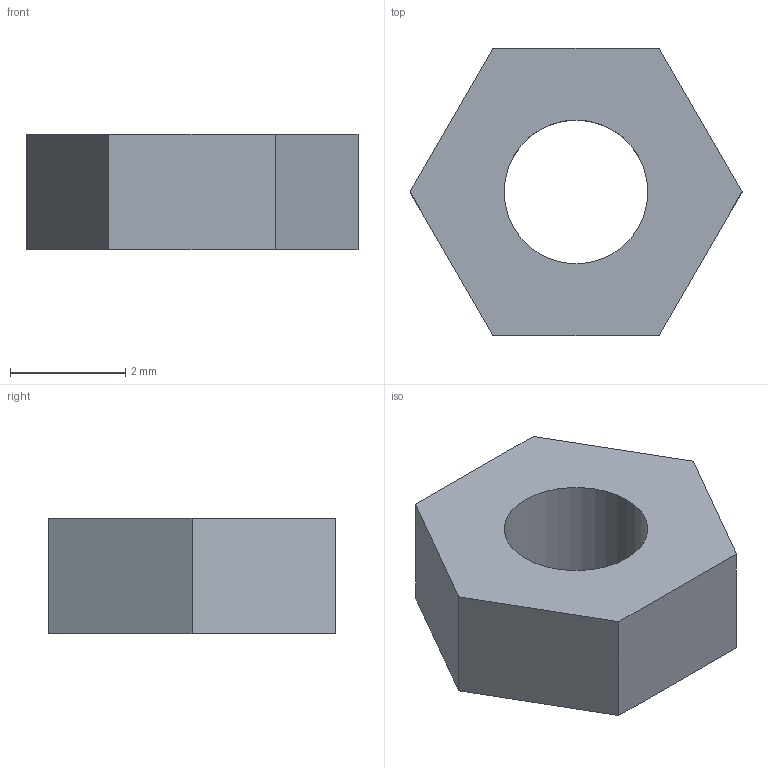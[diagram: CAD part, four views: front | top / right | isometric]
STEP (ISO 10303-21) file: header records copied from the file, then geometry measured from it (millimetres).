
FILE_DESCRIPTION(('Open CASCADE Model'),'2;1');
FILE_NAME('Open CASCADE Shape Model','2026-10-19T15:20:36',('Author'),( 'Open CASCADE'),'Open CASCADE STEP processor 7.9','Open CASCADE 7.9' ,'Unknown');
FILE_SCHEMA(('AUTOMOTIVE_DESIGN { 1 0 10303 214 1 1 1 1 }'));
Length unit declared in the file: millimetre
Products named in the file (1): Open CASCADE STEP translator 7.9 9
Bounding box: 5.77 x 5 x 2 mm (x, y, z)
Volume: 33.5 mm3; surface area: 83.8 mm2
Topology: 1 solids, 1 shells, 9 faces, 21 edges, 14 vertices
Faces by surface type: plane 8, cylinder 1
Full cylindrical faces by diameter (mm): 2.5 x1
Entity records: 550 total; most frequent: CARTESIAN_POINT 99, DIRECTION 83, LINE 59, VECTOR 59, ORIENTED_EDGE 42, PCURVE 42, DEFINITIONAL_REPRESENTATION 42, EDGE_CURVE 21
